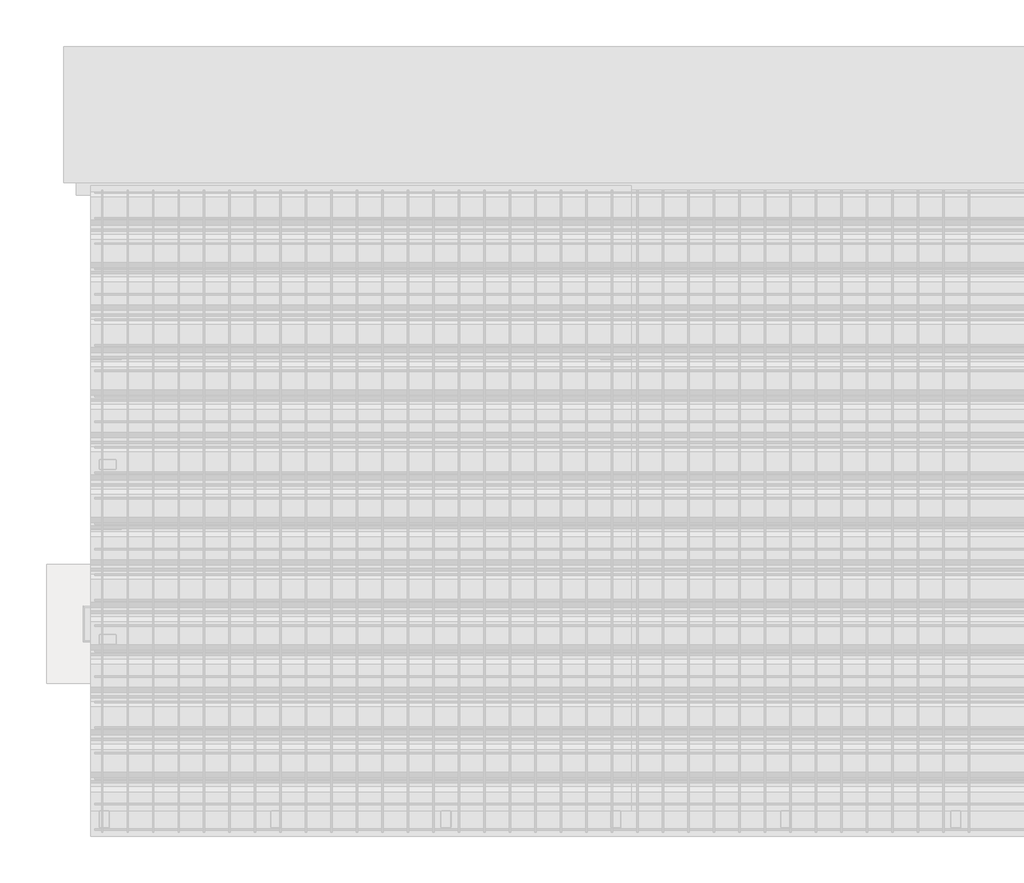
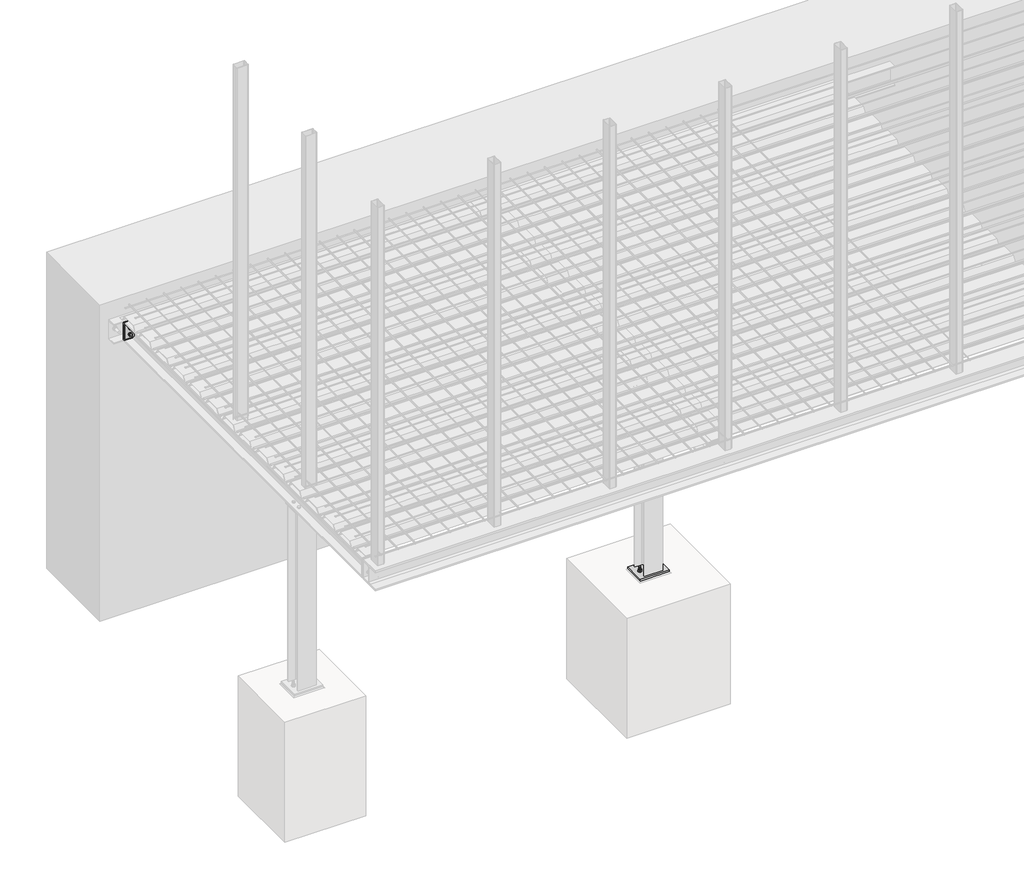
# One storey, part 8 of 36: 9 proxies.
"""IFC4 building model written with IfcOpenShell, lengths in millimetres."""

from ifc_helpers import new_model, si_unit, point, frame, frame_2d, origin, place, context, project, spatial, polyline, circle_curve, trimmed, segment, composite_curve, outline, extrude, element, save

model = new_model("IFC4")

# Units and contexts
model_context = context("Model", 3, world=origin())
ifc_project = project(units=[si_unit("LENGTHUNIT", "METRE", prefix="MILLI")], contexts=[model_context])

# Site, building, storey
site = spatial("IfcSite", under=ifc_project)
building = spatial("IfcBuilding", under=site)
storey = spatial("IfcBuildingStorey", under=building, Name="Základy", Elevation=-1200.0)

# Proxies
placement = place(None, origin())
element("IfcBuildingElementProxy", 1, Name="PLECH", ObjectType="PLECH", at=placement, inside=storey, context=model_context, shape_type="SweptSolid", body=[
    extrude(outline(polyline([(-40.0, 3775.0), (140.0, 3775.0), (140.0, 3767.0), (-40.0, 3767.0), (-40.0, 3775.0)])), frame((0.0, 0.0, -316.0), z_axis=(0.0, 0.0, 1.0), x_axis=(1.0, 0.0, 0.0)), (0.0, 0.0, 1.0), 132.0),
])
element("IfcBuildingElementProxy", 2, Name="PLECH", ObjectType="PLECH", at=placement, inside=storey, context=model_context, shape_type="SweptSolid", body=[
    extrude(outline(polyline([(3175.0, 1356.0), (3175.0, 1164.0), (2925.0, 1164.0), (2925.0, 1356.0), (3175.0, 1356.0)])), frame((0.0, 0.0, -1990.0), z_axis=(0.0, 0.0, 1.0), x_axis=(1.0, 0.0, 0.0)), (0.0, 0.0, 1.0), 15.0),
])
element("IfcBuildingElementProxy", 3, Name="PLECH", ObjectType="PLECH", at=placement, inside=storey, context=model_context, shape_type="SweptSolid", body=[
    extrude(outline(polyline([(3140.0, 1346.0), (3140.0, 1174.0), (2960.0, 1174.0), (2960.0, 1346.0), (3140.0, 1346.0)])), frame((0.0, 0.0, -350.0), z_axis=(0.0, 0.0, 1.0), x_axis=(1.0, 0.0, 0.0)), (0.0, 0.0, 1.0), 10.0),
])
element("IfcBuildingElementProxy", 4, Name="PLECH", ObjectType="PLECH", at=placement, inside=storey, context=model_context, shape_type="SweptSolid", body=[
    extrude(outline(composite_curve([segment(polyline([(3785.0, -170.5), (3834.5, -170.5)]), True, "CONTINUOUS"), segment(trimmed(circle_curve(frame_2d((3854.5, -170.5)), 20.0), [point((3834.5, -170.5))], [point((3854.5, -190.5))], True, "CARTESIAN"), True, "CONTINUOUS"), segment(polyline([(3854.5, -190.5), (3854.5, -309.5)]), True, "CONTINUOUS"), segment(trimmed(circle_curve(frame_2d((3854.5, -329.5)), 20.0), [point((3854.5, -309.5))], [point((3834.5, -329.5))], True, "CARTESIAN"), True, "CONTINUOUS"), segment(polyline([(3834.5, -329.5), (3785.0, -329.5), (3785.0, -170.5)]), True, "CONTINUOUS")], self_intersect=False)), frame((46.0, 0.0, 0.0), z_axis=(1.0, 0.0, 0.0), x_axis=(0.0, 1.0, 0.0)), (0.0, 0.0, 1.0), 8.0),
])
element("IfcBuildingElementProxy", 5, Name="PLECH", ObjectType="PLECH", at=placement, inside=storey, context=model_context, shape_type="SweptSolid", body=[
    extrude(outline(polyline([(-40.0, 3785.0), (140.0, 3785.0), (140.0, 3775.0), (-40.0, 3775.0), (-40.0, 3785.0)])), frame((0.0, 0.0, -332.0), z_axis=(0.0, 0.0, 1.0), x_axis=(1.0, 0.0, 0.0)), (0.0, 0.0, 1.0), 164.0),
])
element("IfcBuildingElementProxy", 6, Name="Bolt assembly", ObjectType="Bolt assembly", at=placement, inside=storey, context=model_context, shape_type="SweptSolid", body=[
    extrude(outline(composite_curve([segment(trimmed(circle_curve(frame_2d((1230.0, -225.0)), 6.5), [point((1230.0, -231.5))], [point((1230.0, -218.5))], False, "CARTESIAN"), True, "CONTINUOUS"), segment(trimmed(circle_curve(frame_2d((1230.0, -225.0)), 6.5), [point((1230.0, -218.5))], [point((1230.0, -231.5))], False, "CARTESIAN"), True, "CONTINUOUS")], self_intersect=False)), frame((3140.1, 0.0, 0.0), z_axis=(1.0, 0.0, 0.0), x_axis=(0.0, 1.0, 0.0)), (0.0, 0.0, 1.0), 10.0),
    extrude(outline(polyline([(1230.0, -235.3923048), (1221.0, -230.1961524), (1221.0, -219.8038476), (1230.0, -214.6076952), (1239.0, -219.8038476), (1239.0, -230.1961524), (1230.0, -235.3923048)])), frame((3130.0, 0.0, 0.0), z_axis=(1.0, 0.0, 0.0), x_axis=(0.0, 1.0, 0.0)), (0.0, 0.0, 1.0), 7.5),
    extrude(outline(composite_curve([segment(trimmed(circle_curve(frame_2d((1230.0, -225.0)), 6.0), [point((1230.0, -231.0))], [point((1230.0, -219.0))], False, "CARTESIAN"), True, "CONTINUOUS"), segment(trimmed(circle_curve(frame_2d((1230.0, -225.0)), 6.0), [point((1230.0, -219.0))], [point((1230.0, -231.0))], False, "CARTESIAN"), True, "CONTINUOUS")], self_intersect=False)), frame((3137.5, 0.0, 0.0), z_axis=(1.0, 0.0, 0.0), x_axis=(0.0, 1.0, 0.0)), (0.0, 0.0, 1.0), 40.0),
    extrude(outline(composite_curve([segment(trimmed(circle_curve(frame_2d((1230.0, -225.0)), 12.0), [point((1230.0, -237.0))], [point((1230.0, -213.0))], False, "CARTESIAN"), True, "CONTINUOUS"), segment(trimmed(circle_curve(frame_2d((1230.0, -225.0)), 12.0), [point((1230.0, -213.0))], [point((1230.0, -237.0))], False, "CARTESIAN"), True, "CONTINUOUS")], self_intersect=False)), frame((3137.5, 0.0, 0.0), z_axis=(1.0, 0.0, 0.0), x_axis=(0.0, 1.0, 0.0)), (0.0, 0.0, 1.0), 2.5),
    extrude(outline(composite_curve([segment(trimmed(circle_curve(frame_2d((1230.0, -225.0)), 12.0), [point((1230.0, -237.0))], [point((1230.0, -213.0))], False, "CARTESIAN"), True, "CONTINUOUS"), segment(trimmed(circle_curve(frame_2d((1230.0, -225.0)), 12.0), [point((1230.0, -213.0))], [point((1230.0, -237.0))], False, "CARTESIAN"), True, "CONTINUOUS")], self_intersect=False)), frame((3160.0, 0.0, 0.0), z_axis=(1.0, 0.0, 0.0), x_axis=(0.0, 1.0, 0.0)), (0.0, 0.0, 1.0), 2.5),
    extrude(outline(polyline([(1230.0, -235.9696551), (1220.5, -230.4848276), (1220.5, -219.5151724), (1230.0, -214.0303449), (1239.5, -219.5151724), (1239.5, -230.4848276), (1230.0, -235.9696551)])), frame((3162.5, 0.0, 0.0), z_axis=(1.0, 0.0, 0.0), x_axis=(0.0, 1.0, 0.0)), (0.0, 0.0, 1.0), 10.0),
    extrude(outline(composite_curve([segment(trimmed(circle_curve(frame_2d((1230.0, -225.0)), 6.5), [point((1230.0, -231.5))], [point((1230.0, -218.5))], False, "CARTESIAN"), True, "CONTINUOUS"), segment(trimmed(circle_curve(frame_2d((1230.0, -225.0)), 6.5), [point((1230.0, -218.5))], [point((1230.0, -231.5))], False, "CARTESIAN"), True, "CONTINUOUS")], self_intersect=False)), frame((3149.9, 0.0, 0.0), z_axis=(1.0, 0.0, 0.0), x_axis=(0.0, 1.0, 0.0)), (0.0, 0.0, 1.0), 10.1),
    extrude(outline(composite_curve([segment(trimmed(circle_curve(frame_2d((1230.0, -275.0)), 6.5), [point((1230.0, -281.5))], [point((1230.0, -268.5))], False, "CARTESIAN"), True, "CONTINUOUS"), segment(trimmed(circle_curve(frame_2d((1230.0, -275.0)), 6.5), [point((1230.0, -268.5))], [point((1230.0, -281.5))], False, "CARTESIAN"), True, "CONTINUOUS")], self_intersect=False)), frame((3140.1, 0.0, 0.0), z_axis=(1.0, 0.0, 0.0), x_axis=(0.0, 1.0, 0.0)), (0.0, 0.0, 1.0), 10.0),
    extrude(outline(polyline([(1230.0, -285.3923048), (1221.0, -280.1961524), (1221.0, -269.8038476), (1230.0, -264.6076952), (1239.0, -269.8038476), (1239.0, -280.1961524), (1230.0, -285.3923048)])), frame((3130.0, 0.0, 0.0), z_axis=(1.0, 0.0, 0.0), x_axis=(0.0, 1.0, 0.0)), (0.0, 0.0, 1.0), 7.5),
    extrude(outline(composite_curve([segment(trimmed(circle_curve(frame_2d((1230.0, -275.0)), 6.0), [point((1230.0, -281.0))], [point((1230.0, -269.0))], False, "CARTESIAN"), True, "CONTINUOUS"), segment(trimmed(circle_curve(frame_2d((1230.0, -275.0)), 6.0), [point((1230.0, -269.0))], [point((1230.0, -281.0))], False, "CARTESIAN"), True, "CONTINUOUS")], self_intersect=False)), frame((3137.5, 0.0, 0.0), z_axis=(1.0, 0.0, 0.0), x_axis=(0.0, 1.0, 0.0)), (0.0, 0.0, 1.0), 40.0),
    extrude(outline(composite_curve([segment(trimmed(circle_curve(frame_2d((1230.0, -275.0)), 12.0), [point((1230.0, -287.0))], [point((1230.0, -263.0))], False, "CARTESIAN"), True, "CONTINUOUS"), segment(trimmed(circle_curve(frame_2d((1230.0, -275.0)), 12.0), [point((1230.0, -263.0))], [point((1230.0, -287.0))], False, "CARTESIAN"), True, "CONTINUOUS")], self_intersect=False)), frame((3137.5, 0.0, 0.0), z_axis=(1.0, 0.0, 0.0), x_axis=(0.0, 1.0, 0.0)), (0.0, 0.0, 1.0), 2.5),
    extrude(outline(composite_curve([segment(trimmed(circle_curve(frame_2d((1230.0, -275.0)), 12.0), [point((1230.0, -287.0))], [point((1230.0, -263.0))], False, "CARTESIAN"), True, "CONTINUOUS"), segment(trimmed(circle_curve(frame_2d((1230.0, -275.0)), 12.0), [point((1230.0, -263.0))], [point((1230.0, -287.0))], False, "CARTESIAN"), True, "CONTINUOUS")], self_intersect=False)), frame((3160.0, 0.0, 0.0), z_axis=(1.0, 0.0, 0.0), x_axis=(0.0, 1.0, 0.0)), (0.0, 0.0, 1.0), 2.5),
    extrude(outline(polyline([(1230.0, -285.9696551), (1220.5, -280.4848276), (1220.5, -269.5151724), (1230.0, -264.0303449), (1239.5, -269.5151724), (1239.5, -280.4848276), (1230.0, -285.9696551)])), frame((3162.5, 0.0, 0.0), z_axis=(1.0, 0.0, 0.0), x_axis=(0.0, 1.0, 0.0)), (0.0, 0.0, 1.0), 10.0),
    extrude(outline(composite_curve([segment(trimmed(circle_curve(frame_2d((1230.0, -275.0)), 6.5), [point((1230.0, -281.5))], [point((1230.0, -268.5))], False, "CARTESIAN"), True, "CONTINUOUS"), segment(trimmed(circle_curve(frame_2d((1230.0, -275.0)), 6.5), [point((1230.0, -268.5))], [point((1230.0, -281.5))], False, "CARTESIAN"), True, "CONTINUOUS")], self_intersect=False)), frame((3149.9, 0.0, 0.0), z_axis=(1.0, 0.0, 0.0), x_axis=(0.0, 1.0, 0.0)), (0.0, 0.0, 1.0), 10.1),
    extrude(outline(composite_curve([segment(trimmed(circle_curve(frame_2d((1290.0, -225.0)), 6.5), [point((1290.0, -231.5))], [point((1290.0, -218.5))], False, "CARTESIAN"), True, "CONTINUOUS"), segment(trimmed(circle_curve(frame_2d((1290.0, -225.0)), 6.5), [point((1290.0, -218.5))], [point((1290.0, -231.5))], False, "CARTESIAN"), True, "CONTINUOUS")], self_intersect=False)), frame((3140.1, 0.0, 0.0), z_axis=(1.0, 0.0, 0.0), x_axis=(0.0, 1.0, 0.0)), (0.0, 0.0, 1.0), 10.0),
    extrude(outline(polyline([(1290.0, -235.3923048), (1281.0, -230.1961524), (1281.0, -219.8038476), (1290.0, -214.6076952), (1299.0, -219.8038476), (1299.0, -230.1961524), (1290.0, -235.3923048)])), frame((3130.0, 0.0, 0.0), z_axis=(1.0, 0.0, 0.0), x_axis=(0.0, 1.0, 0.0)), (0.0, 0.0, 1.0), 7.5),
    extrude(outline(composite_curve([segment(trimmed(circle_curve(frame_2d((1290.0, -225.0)), 6.0), [point((1290.0, -231.0))], [point((1290.0, -219.0))], False, "CARTESIAN"), True, "CONTINUOUS"), segment(trimmed(circle_curve(frame_2d((1290.0, -225.0)), 6.0), [point((1290.0, -219.0))], [point((1290.0, -231.0))], False, "CARTESIAN"), True, "CONTINUOUS")], self_intersect=False)), frame((3137.5, 0.0, 0.0), z_axis=(1.0, 0.0, 0.0), x_axis=(0.0, 1.0, 0.0)), (0.0, 0.0, 1.0), 40.0),
    extrude(outline(composite_curve([segment(trimmed(circle_curve(frame_2d((1290.0, -225.0)), 12.0), [point((1290.0, -237.0))], [point((1290.0, -213.0))], False, "CARTESIAN"), True, "CONTINUOUS"), segment(trimmed(circle_curve(frame_2d((1290.0, -225.0)), 12.0), [point((1290.0, -213.0))], [point((1290.0, -237.0))], False, "CARTESIAN"), True, "CONTINUOUS")], self_intersect=False)), frame((3137.5, 0.0, 0.0), z_axis=(1.0, 0.0, 0.0), x_axis=(0.0, 1.0, 0.0)), (0.0, 0.0, 1.0), 2.5),
    extrude(outline(composite_curve([segment(trimmed(circle_curve(frame_2d((1290.0, -225.0)), 12.0), [point((1290.0, -237.0))], [point((1290.0, -213.0))], False, "CARTESIAN"), True, "CONTINUOUS"), segment(trimmed(circle_curve(frame_2d((1290.0, -225.0)), 12.0), [point((1290.0, -213.0))], [point((1290.0, -237.0))], False, "CARTESIAN"), True, "CONTINUOUS")], self_intersect=False)), frame((3160.0, 0.0, 0.0), z_axis=(1.0, 0.0, 0.0), x_axis=(0.0, 1.0, 0.0)), (0.0, 0.0, 1.0), 2.5),
    extrude(outline(polyline([(1290.0, -235.9696551), (1280.5, -230.4848276), (1280.5, -219.5151724), (1290.0, -214.0303449), (1299.5, -219.5151724), (1299.5, -230.4848276), (1290.0, -235.9696551)])), frame((3162.5, 0.0, 0.0), z_axis=(1.0, 0.0, 0.0), x_axis=(0.0, 1.0, 0.0)), (0.0, 0.0, 1.0), 10.0),
    extrude(outline(composite_curve([segment(trimmed(circle_curve(frame_2d((1290.0, -225.0)), 6.5), [point((1290.0, -231.5))], [point((1290.0, -218.5))], False, "CARTESIAN"), True, "CONTINUOUS"), segment(trimmed(circle_curve(frame_2d((1290.0, -225.0)), 6.5), [point((1290.0, -218.5))], [point((1290.0, -231.5))], False, "CARTESIAN"), True, "CONTINUOUS")], self_intersect=False)), frame((3149.9, 0.0, 0.0), z_axis=(1.0, 0.0, 0.0), x_axis=(0.0, 1.0, 0.0)), (0.0, 0.0, 1.0), 10.1),
    extrude(outline(composite_curve([segment(trimmed(circle_curve(frame_2d((1290.0, -275.0)), 6.5), [point((1290.0, -281.5))], [point((1290.0, -268.5))], False, "CARTESIAN"), True, "CONTINUOUS"), segment(trimmed(circle_curve(frame_2d((1290.0, -275.0)), 6.5), [point((1290.0, -268.5))], [point((1290.0, -281.5))], False, "CARTESIAN"), True, "CONTINUOUS")], self_intersect=False)), frame((3140.1, 0.0, 0.0), z_axis=(1.0, 0.0, 0.0), x_axis=(0.0, 1.0, 0.0)), (0.0, 0.0, 1.0), 10.0),
    extrude(outline(polyline([(1290.0, -285.3923048), (1281.0, -280.1961524), (1281.0, -269.8038476), (1290.0, -264.6076952), (1299.0, -269.8038476), (1299.0, -280.1961524), (1290.0, -285.3923048)])), frame((3130.0, 0.0, 0.0), z_axis=(1.0, 0.0, 0.0), x_axis=(0.0, 1.0, 0.0)), (0.0, 0.0, 1.0), 7.5),
    extrude(outline(composite_curve([segment(trimmed(circle_curve(frame_2d((1290.0, -275.0)), 6.0), [point((1290.0, -281.0))], [point((1290.0, -269.0))], False, "CARTESIAN"), True, "CONTINUOUS"), segment(trimmed(circle_curve(frame_2d((1290.0, -275.0)), 6.0), [point((1290.0, -269.0))], [point((1290.0, -281.0))], False, "CARTESIAN"), True, "CONTINUOUS")], self_intersect=False)), frame((3137.5, 0.0, 0.0), z_axis=(1.0, 0.0, 0.0), x_axis=(0.0, 1.0, 0.0)), (0.0, 0.0, 1.0), 40.0),
    extrude(outline(composite_curve([segment(trimmed(circle_curve(frame_2d((1290.0, -275.0)), 12.0), [point((1290.0, -287.0))], [point((1290.0, -263.0))], False, "CARTESIAN"), True, "CONTINUOUS"), segment(trimmed(circle_curve(frame_2d((1290.0, -275.0)), 12.0), [point((1290.0, -263.0))], [point((1290.0, -287.0))], False, "CARTESIAN"), True, "CONTINUOUS")], self_intersect=False)), frame((3137.5, 0.0, 0.0), z_axis=(1.0, 0.0, 0.0), x_axis=(0.0, 1.0, 0.0)), (0.0, 0.0, 1.0), 2.5),
    extrude(outline(composite_curve([segment(trimmed(circle_curve(frame_2d((1290.0, -275.0)), 12.0), [point((1290.0, -287.0))], [point((1290.0, -263.0))], False, "CARTESIAN"), True, "CONTINUOUS"), segment(trimmed(circle_curve(frame_2d((1290.0, -275.0)), 12.0), [point((1290.0, -263.0))], [point((1290.0, -287.0))], False, "CARTESIAN"), True, "CONTINUOUS")], self_intersect=False)), frame((3160.0, 0.0, 0.0), z_axis=(1.0, 0.0, 0.0), x_axis=(0.0, 1.0, 0.0)), (0.0, 0.0, 1.0), 2.5),
    extrude(outline(polyline([(1290.0, -285.9696551), (1280.5, -280.4848276), (1280.5, -269.5151724), (1290.0, -264.0303449), (1299.5, -269.5151724), (1299.5, -280.4848276), (1290.0, -285.9696551)])), frame((3162.5, 0.0, 0.0), z_axis=(1.0, 0.0, 0.0), x_axis=(0.0, 1.0, 0.0)), (0.0, 0.0, 1.0), 10.0),
    extrude(outline(composite_curve([segment(trimmed(circle_curve(frame_2d((1290.0, -275.0)), 6.5), [point((1290.0, -281.5))], [point((1290.0, -268.5))], False, "CARTESIAN"), True, "CONTINUOUS"), segment(trimmed(circle_curve(frame_2d((1290.0, -275.0)), 6.5), [point((1290.0, -268.5))], [point((1290.0, -281.5))], False, "CARTESIAN"), True, "CONTINUOUS")], self_intersect=False)), frame((3149.9, 0.0, 0.0), z_axis=(1.0, 0.0, 0.0), x_axis=(0.0, 1.0, 0.0)), (0.0, 0.0, 1.0), 10.1),
])
element("IfcBuildingElementProxy", 7, Name="Bolt assembly", ObjectType="Bolt assembly", at=placement, inside=storey, context=model_context, shape_type="SweptSolid", body=[
    extrude(outline(polyline([(2982.7364934, 1260.0), (2978.8682467, 1253.3000002), (2971.1317533, 1253.3000002), (2967.2635066, 1260.0), (2971.1317533, 1266.6999998), (2978.8682467, 1266.6999998), (2982.7364934, 1260.0)])), frame((0.0, 0.0, -2122.0), z_axis=(0.0, 0.0, 1.0), x_axis=(1.0, 0.0, 0.0)), (0.0, 0.0, 1.0), 132.0),
    extrude(outline(composite_curve([segment(trimmed(circle_curve(frame_2d((2975.0, 1260.0)), 8.0), [point((2983.0, 1260.0))], [point((2967.0, 1260.0))], False, "CARTESIAN"), True, "CONTINUOUS"), segment(trimmed(circle_curve(frame_2d((2975.0, 1260.0)), 8.0), [point((2967.0, 1260.0))], [point((2983.0, 1260.0))], False, "CARTESIAN"), True, "CONTINUOUS")], self_intersect=False)), frame((0.0, 0.0, -1990.0), z_axis=(0.0, 0.0, 1.0), x_axis=(1.0, 0.0, 0.0)), (0.0, 0.0, 1.0), 58.0),
    extrude(outline(composite_curve([segment(trimmed(circle_curve(frame_2d((2975.0, 1260.0)), 15.0), [point((2990.0, 1260.0))], [point((2960.0, 1260.0))], False, "CARTESIAN"), True, "CONTINUOUS"), segment(trimmed(circle_curve(frame_2d((2975.0, 1260.0)), 15.0), [point((2960.0, 1260.0))], [point((2990.0, 1260.0))], False, "CARTESIAN"), True, "CONTINUOUS")], self_intersect=False)), frame((0.0, 0.0, -1975.0), z_axis=(0.0, 0.0, 1.0), x_axis=(1.0, 0.0, 0.0)), (0.0, 0.0, 1.0), 3.0),
    extrude(outline(polyline([(2990.4441197, 1260.0), (2982.7220599, 1246.625), (2967.2779401, 1246.625), (2959.5558803, 1260.0), (2967.2779401, 1273.375), (2982.7220599, 1273.375), (2990.4441197, 1260.0)])), frame((0.0, 0.0, -1972.0), z_axis=(0.0, 0.0, 1.0), x_axis=(1.0, 0.0, 0.0)), (0.0, 0.0, 1.0), 13.0),
    extrude(outline(composite_curve([segment(trimmed(circle_curve(frame_2d((2975.0, 1260.0)), 9.0), [point((2984.0, 1260.0))], [point((2966.0, 1260.0))], False, "CARTESIAN"), True, "CONTINUOUS"), segment(trimmed(circle_curve(frame_2d((2975.0, 1260.0)), 9.0), [point((2966.0, 1260.0))], [point((2984.0, 1260.0))], False, "CARTESIAN"), True, "CONTINUOUS")], self_intersect=False)), frame((0.0, 0.0, -1990.0), z_axis=(0.0, 0.0, 1.0), x_axis=(1.0, 0.0, 0.0)), (0.0, 0.0, 1.0), 15.1),
    extrude(outline(polyline([(3132.7364934, 1260.0), (3128.8682467, 1253.3000002), (3121.1317533, 1253.3000002), (3117.2635066, 1260.0), (3121.1317533, 1266.6999998), (3128.8682467, 1266.6999998), (3132.7364934, 1260.0)])), frame((0.0, 0.0, -2122.0), z_axis=(0.0, 0.0, 1.0), x_axis=(1.0, 0.0, 0.0)), (0.0, 0.0, 1.0), 132.0),
    extrude(outline(composite_curve([segment(trimmed(circle_curve(frame_2d((3125.0, 1260.0)), 8.0), [point((3133.0, 1260.0))], [point((3117.0, 1260.0))], False, "CARTESIAN"), True, "CONTINUOUS"), segment(trimmed(circle_curve(frame_2d((3125.0, 1260.0)), 8.0), [point((3117.0, 1260.0))], [point((3133.0, 1260.0))], False, "CARTESIAN"), True, "CONTINUOUS")], self_intersect=False)), frame((0.0, 0.0, -1990.0), z_axis=(0.0, 0.0, 1.0), x_axis=(1.0, 0.0, 0.0)), (0.0, 0.0, 1.0), 58.0),
    extrude(outline(composite_curve([segment(trimmed(circle_curve(frame_2d((3125.0, 1260.0)), 15.0), [point((3140.0, 1260.0))], [point((3110.0, 1260.0))], False, "CARTESIAN"), True, "CONTINUOUS"), segment(trimmed(circle_curve(frame_2d((3125.0, 1260.0)), 15.0), [point((3110.0, 1260.0))], [point((3140.0, 1260.0))], False, "CARTESIAN"), True, "CONTINUOUS")], self_intersect=False)), frame((0.0, 0.0, -1975.0), z_axis=(0.0, 0.0, 1.0), x_axis=(1.0, 0.0, 0.0)), (0.0, 0.0, 1.0), 3.0),
    extrude(outline(polyline([(3140.4441197, 1260.0), (3132.7220599, 1246.625), (3117.2779401, 1246.625), (3109.5558803, 1260.0), (3117.2779401, 1273.375), (3132.7220599, 1273.375), (3140.4441197, 1260.0)])), frame((0.0, 0.0, -1972.0), z_axis=(0.0, 0.0, 1.0), x_axis=(1.0, 0.0, 0.0)), (0.0, 0.0, 1.0), 13.0),
    extrude(outline(composite_curve([segment(trimmed(circle_curve(frame_2d((3125.0, 1260.0)), 9.0), [point((3134.0, 1260.0))], [point((3116.0, 1260.0))], False, "CARTESIAN"), True, "CONTINUOUS"), segment(trimmed(circle_curve(frame_2d((3125.0, 1260.0)), 9.0), [point((3116.0, 1260.0))], [point((3134.0, 1260.0))], False, "CARTESIAN"), True, "CONTINUOUS")], self_intersect=False)), frame((0.0, 0.0, -1990.0), z_axis=(0.0, 0.0, 1.0), x_axis=(1.0, 0.0, 0.0)), (0.0, 0.0, 1.0), 15.1),
])
element("IfcBuildingElementProxy", 8, Name="Bolt assembly", ObjectType="Bolt assembly", at=placement, inside=storey, context=model_context, shape_type="SweptSolid", body=[
    extrude(outline(composite_curve([segment(trimmed(circle_curve(frame_2d((3000.0, 1220.0)), 6.5), [point((3006.5, 1220.0))], [point((2993.5, 1220.0))], False, "CARTESIAN"), True, "CONTINUOUS"), segment(trimmed(circle_curve(frame_2d((3000.0, 1220.0)), 6.5), [point((2993.5, 1220.0))], [point((3006.5, 1220.0))], False, "CARTESIAN"), True, "CONTINUOUS")], self_intersect=False)), frame((0.0, 0.0, -350.0), z_axis=(0.0, 0.0, 1.0), x_axis=(1.0, 0.0, 0.0)), (0.0, 0.0, 1.0), 10.1),
    extrude(outline(polyline([(3010.3923048, 1220.0), (3005.1961524, 1211.0), (2994.8038476, 1211.0), (2989.6076952, 1220.0), (2994.8038476, 1229.0), (3005.1961524, 1229.0), (3010.3923048, 1220.0)])), frame((0.0, 0.0, -323.5), z_axis=(0.0, 0.0, 1.0), x_axis=(1.0, 0.0, 0.0)), (0.0, 0.0, 1.0), 7.5),
    extrude(outline(composite_curve([segment(trimmed(circle_curve(frame_2d((3000.0, 1220.0)), 6.0), [point((3006.0, 1220.0))], [point((2994.0, 1220.0))], False, "CARTESIAN"), True, "CONTINUOUS"), segment(trimmed(circle_curve(frame_2d((3000.0, 1220.0)), 6.0), [point((2994.0, 1220.0))], [point((3006.0, 1220.0))], False, "CARTESIAN"), True, "CONTINUOUS")], self_intersect=False)), frame((0.0, 0.0, -368.5), z_axis=(0.0, 0.0, 1.0), x_axis=(1.0, 0.0, 0.0)), (0.0, 0.0, 1.0), 45.0),
    extrude(outline(composite_curve([segment(trimmed(circle_curve(frame_2d((3000.0, 1220.0)), 12.0), [point((3012.0, 1220.0))], [point((2988.0, 1220.0))], False, "CARTESIAN"), True, "CONTINUOUS"), segment(trimmed(circle_curve(frame_2d((3000.0, 1220.0)), 12.0), [point((2988.0, 1220.0))], [point((3012.0, 1220.0))], False, "CARTESIAN"), True, "CONTINUOUS")], self_intersect=False)), frame((0.0, 0.0, -326.0), z_axis=(0.0, 0.0, 1.0), x_axis=(1.0, 0.0, 0.0)), (0.0, 0.0, 1.0), 2.5),
    extrude(outline(composite_curve([segment(trimmed(circle_curve(frame_2d((3000.0, 1220.0)), 12.0), [point((3012.0, 1220.0))], [point((2988.0, 1220.0))], False, "CARTESIAN"), True, "CONTINUOUS"), segment(trimmed(circle_curve(frame_2d((3000.0, 1220.0)), 12.0), [point((2988.0, 1220.0))], [point((3012.0, 1220.0))], False, "CARTESIAN"), True, "CONTINUOUS")], self_intersect=False)), frame((0.0, 0.0, -352.5), z_axis=(0.0, 0.0, 1.0), x_axis=(1.0, 0.0, 0.0)), (0.0, 0.0, 1.0), 2.5),
    extrude(outline(polyline([(3010.9696551, 1220.0), (3005.4848276, 1210.5), (2994.5151724, 1210.5), (2989.0303449, 1220.0), (2994.5151724, 1229.5), (3005.4848276, 1229.5), (3010.9696551, 1220.0)])), frame((0.0, 0.0, -362.5), z_axis=(0.0, 0.0, 1.0), x_axis=(1.0, 0.0, 0.0)), (0.0, 0.0, 1.0), 10.0),
    extrude(outline(composite_curve([segment(trimmed(circle_curve(frame_2d((3000.0, 1220.0)), 6.5), [point((3006.5, 1220.0))], [point((2993.5, 1220.0))], False, "CARTESIAN"), True, "CONTINUOUS"), segment(trimmed(circle_curve(frame_2d((3000.0, 1220.0)), 6.5), [point((2993.5, 1220.0))], [point((3006.5, 1220.0))], False, "CARTESIAN"), True, "CONTINUOUS")], self_intersect=False)), frame((0.0, 0.0, -340.1), z_axis=(0.0, 0.0, 1.0), x_axis=(1.0, 0.0, 0.0)), (0.0, 0.0, 1.0), 14.0),
    extrude(outline(composite_curve([segment(trimmed(circle_curve(frame_2d((3100.0, 1220.0)), 6.5), [point((3106.5, 1220.0))], [point((3093.5, 1220.0))], False, "CARTESIAN"), True, "CONTINUOUS"), segment(trimmed(circle_curve(frame_2d((3100.0, 1220.0)), 6.5), [point((3093.5, 1220.0))], [point((3106.5, 1220.0))], False, "CARTESIAN"), True, "CONTINUOUS")], self_intersect=False)), frame((0.0, 0.0, -350.0), z_axis=(0.0, 0.0, 1.0), x_axis=(1.0, 0.0, 0.0)), (0.0, 0.0, 1.0), 10.1),
    extrude(outline(polyline([(3110.3923048, 1220.0), (3105.1961524, 1211.0), (3094.8038476, 1211.0), (3089.6076952, 1220.0), (3094.8038476, 1229.0), (3105.1961524, 1229.0), (3110.3923048, 1220.0)])), frame((0.0, 0.0, -323.5), z_axis=(0.0, 0.0, 1.0), x_axis=(1.0, 0.0, 0.0)), (0.0, 0.0, 1.0), 7.5),
    extrude(outline(composite_curve([segment(trimmed(circle_curve(frame_2d((3100.0, 1220.0)), 6.0), [point((3106.0, 1220.0))], [point((3094.0, 1220.0))], False, "CARTESIAN"), True, "CONTINUOUS"), segment(trimmed(circle_curve(frame_2d((3100.0, 1220.0)), 6.0), [point((3094.0, 1220.0))], [point((3106.0, 1220.0))], False, "CARTESIAN"), True, "CONTINUOUS")], self_intersect=False)), frame((0.0, 0.0, -368.5), z_axis=(0.0, 0.0, 1.0), x_axis=(1.0, 0.0, 0.0)), (0.0, 0.0, 1.0), 45.0),
    extrude(outline(composite_curve([segment(trimmed(circle_curve(frame_2d((3100.0, 1220.0)), 12.0), [point((3112.0, 1220.0))], [point((3088.0, 1220.0))], False, "CARTESIAN"), True, "CONTINUOUS"), segment(trimmed(circle_curve(frame_2d((3100.0, 1220.0)), 12.0), [point((3088.0, 1220.0))], [point((3112.0, 1220.0))], False, "CARTESIAN"), True, "CONTINUOUS")], self_intersect=False)), frame((0.0, 0.0, -326.0), z_axis=(0.0, 0.0, 1.0), x_axis=(1.0, 0.0, 0.0)), (0.0, 0.0, 1.0), 2.5),
    extrude(outline(composite_curve([segment(trimmed(circle_curve(frame_2d((3100.0, 1220.0)), 12.0), [point((3112.0, 1220.0))], [point((3088.0, 1220.0))], False, "CARTESIAN"), True, "CONTINUOUS"), segment(trimmed(circle_curve(frame_2d((3100.0, 1220.0)), 12.0), [point((3088.0, 1220.0))], [point((3112.0, 1220.0))], False, "CARTESIAN"), True, "CONTINUOUS")], self_intersect=False)), frame((0.0, 0.0, -352.5), z_axis=(0.0, 0.0, 1.0), x_axis=(1.0, 0.0, 0.0)), (0.0, 0.0, 1.0), 2.5),
    extrude(outline(polyline([(3110.9696551, 1220.0), (3105.4848276, 1210.5), (3094.5151724, 1210.5), (3089.0303449, 1220.0), (3094.5151724, 1229.5), (3105.4848276, 1229.5), (3110.9696551, 1220.0)])), frame((0.0, 0.0, -362.5), z_axis=(0.0, 0.0, 1.0), x_axis=(1.0, 0.0, 0.0)), (0.0, 0.0, 1.0), 10.0),
    extrude(outline(composite_curve([segment(trimmed(circle_curve(frame_2d((3100.0, 1220.0)), 6.5), [point((3106.5, 1220.0))], [point((3093.5, 1220.0))], False, "CARTESIAN"), True, "CONTINUOUS"), segment(trimmed(circle_curve(frame_2d((3100.0, 1220.0)), 6.5), [point((3093.5, 1220.0))], [point((3106.5, 1220.0))], False, "CARTESIAN"), True, "CONTINUOUS")], self_intersect=False)), frame((0.0, 0.0, -340.1), z_axis=(0.0, 0.0, 1.0), x_axis=(1.0, 0.0, 0.0)), (0.0, 0.0, 1.0), 14.0),
    extrude(outline(composite_curve([segment(trimmed(circle_curve(frame_2d((3000.0, 1300.0)), 6.5), [point((3006.5, 1300.0))], [point((2993.5, 1300.0))], False, "CARTESIAN"), True, "CONTINUOUS"), segment(trimmed(circle_curve(frame_2d((3000.0, 1300.0)), 6.5), [point((2993.5, 1300.0))], [point((3006.5, 1300.0))], False, "CARTESIAN"), True, "CONTINUOUS")], self_intersect=False)), frame((0.0, 0.0, -350.0), z_axis=(0.0, 0.0, 1.0), x_axis=(1.0, 0.0, 0.0)), (0.0, 0.0, 1.0), 10.1),
    extrude(outline(polyline([(3010.3923048, 1300.0), (3005.1961524, 1291.0), (2994.8038476, 1291.0), (2989.6076952, 1300.0), (2994.8038476, 1309.0), (3005.1961524, 1309.0), (3010.3923048, 1300.0)])), frame((0.0, 0.0, -323.5), z_axis=(0.0, 0.0, 1.0), x_axis=(1.0, 0.0, 0.0)), (0.0, 0.0, 1.0), 7.5),
    extrude(outline(composite_curve([segment(trimmed(circle_curve(frame_2d((3000.0, 1300.0)), 6.0), [point((3006.0, 1300.0))], [point((2994.0, 1300.0))], False, "CARTESIAN"), True, "CONTINUOUS"), segment(trimmed(circle_curve(frame_2d((3000.0, 1300.0)), 6.0), [point((2994.0, 1300.0))], [point((3006.0, 1300.0))], False, "CARTESIAN"), True, "CONTINUOUS")], self_intersect=False)), frame((0.0, 0.0, -368.5), z_axis=(0.0, 0.0, 1.0), x_axis=(1.0, 0.0, 0.0)), (0.0, 0.0, 1.0), 45.0),
    extrude(outline(composite_curve([segment(trimmed(circle_curve(frame_2d((3000.0, 1300.0)), 12.0), [point((3012.0, 1300.0))], [point((2988.0, 1300.0))], False, "CARTESIAN"), True, "CONTINUOUS"), segment(trimmed(circle_curve(frame_2d((3000.0, 1300.0)), 12.0), [point((2988.0, 1300.0))], [point((3012.0, 1300.0))], False, "CARTESIAN"), True, "CONTINUOUS")], self_intersect=False)), frame((0.0, 0.0, -326.0), z_axis=(0.0, 0.0, 1.0), x_axis=(1.0, 0.0, 0.0)), (0.0, 0.0, 1.0), 2.5),
    extrude(outline(composite_curve([segment(trimmed(circle_curve(frame_2d((3000.0, 1300.0)), 12.0), [point((3012.0, 1300.0))], [point((2988.0, 1300.0))], False, "CARTESIAN"), True, "CONTINUOUS"), segment(trimmed(circle_curve(frame_2d((3000.0, 1300.0)), 12.0), [point((2988.0, 1300.0))], [point((3012.0, 1300.0))], False, "CARTESIAN"), True, "CONTINUOUS")], self_intersect=False)), frame((0.0, 0.0, -352.5), z_axis=(0.0, 0.0, 1.0), x_axis=(1.0, 0.0, 0.0)), (0.0, 0.0, 1.0), 2.5),
    extrude(outline(polyline([(3010.9696551, 1300.0), (3005.4848276, 1290.5), (2994.5151724, 1290.5), (2989.0303449, 1300.0), (2994.5151724, 1309.5), (3005.4848276, 1309.5), (3010.9696551, 1300.0)])), frame((0.0, 0.0, -362.5), z_axis=(0.0, 0.0, 1.0), x_axis=(1.0, 0.0, 0.0)), (0.0, 0.0, 1.0), 10.0),
    extrude(outline(composite_curve([segment(trimmed(circle_curve(frame_2d((3000.0, 1300.0)), 6.5), [point((3006.5, 1300.0))], [point((2993.5, 1300.0))], False, "CARTESIAN"), True, "CONTINUOUS"), segment(trimmed(circle_curve(frame_2d((3000.0, 1300.0)), 6.5), [point((2993.5, 1300.0))], [point((3006.5, 1300.0))], False, "CARTESIAN"), True, "CONTINUOUS")], self_intersect=False)), frame((0.0, 0.0, -340.1), z_axis=(0.0, 0.0, 1.0), x_axis=(1.0, 0.0, 0.0)), (0.0, 0.0, 1.0), 14.0),
    extrude(outline(composite_curve([segment(trimmed(circle_curve(frame_2d((3100.0, 1300.0)), 6.5), [point((3106.5, 1300.0))], [point((3093.5, 1300.0))], False, "CARTESIAN"), True, "CONTINUOUS"), segment(trimmed(circle_curve(frame_2d((3100.0, 1300.0)), 6.5), [point((3093.5, 1300.0))], [point((3106.5, 1300.0))], False, "CARTESIAN"), True, "CONTINUOUS")], self_intersect=False)), frame((0.0, 0.0, -350.0), z_axis=(0.0, 0.0, 1.0), x_axis=(1.0, 0.0, 0.0)), (0.0, 0.0, 1.0), 10.1),
    extrude(outline(polyline([(3110.3923048, 1300.0), (3105.1961524, 1291.0), (3094.8038476, 1291.0), (3089.6076952, 1300.0), (3094.8038476, 1309.0), (3105.1961524, 1309.0), (3110.3923048, 1300.0)])), frame((0.0, 0.0, -323.5), z_axis=(0.0, 0.0, 1.0), x_axis=(1.0, 0.0, 0.0)), (0.0, 0.0, 1.0), 7.5),
    extrude(outline(composite_curve([segment(trimmed(circle_curve(frame_2d((3100.0, 1300.0)), 6.0), [point((3106.0, 1300.0))], [point((3094.0, 1300.0))], False, "CARTESIAN"), True, "CONTINUOUS"), segment(trimmed(circle_curve(frame_2d((3100.0, 1300.0)), 6.0), [point((3094.0, 1300.0))], [point((3106.0, 1300.0))], False, "CARTESIAN"), True, "CONTINUOUS")], self_intersect=False)), frame((0.0, 0.0, -368.5), z_axis=(0.0, 0.0, 1.0), x_axis=(1.0, 0.0, 0.0)), (0.0, 0.0, 1.0), 45.0),
    extrude(outline(composite_curve([segment(trimmed(circle_curve(frame_2d((3100.0, 1300.0)), 12.0), [point((3112.0, 1300.0))], [point((3088.0, 1300.0))], False, "CARTESIAN"), True, "CONTINUOUS"), segment(trimmed(circle_curve(frame_2d((3100.0, 1300.0)), 12.0), [point((3088.0, 1300.0))], [point((3112.0, 1300.0))], False, "CARTESIAN"), True, "CONTINUOUS")], self_intersect=False)), frame((0.0, 0.0, -326.0), z_axis=(0.0, 0.0, 1.0), x_axis=(1.0, 0.0, 0.0)), (0.0, 0.0, 1.0), 2.5),
    extrude(outline(composite_curve([segment(trimmed(circle_curve(frame_2d((3100.0, 1300.0)), 12.0), [point((3112.0, 1300.0))], [point((3088.0, 1300.0))], False, "CARTESIAN"), True, "CONTINUOUS"), segment(trimmed(circle_curve(frame_2d((3100.0, 1300.0)), 12.0), [point((3088.0, 1300.0))], [point((3112.0, 1300.0))], False, "CARTESIAN"), True, "CONTINUOUS")], self_intersect=False)), frame((0.0, 0.0, -352.5), z_axis=(0.0, 0.0, 1.0), x_axis=(1.0, 0.0, 0.0)), (0.0, 0.0, 1.0), 2.5),
    extrude(outline(polyline([(3110.9696551, 1300.0), (3105.4848276, 1290.5), (3094.5151724, 1290.5), (3089.0303449, 1300.0), (3094.5151724, 1309.5), (3105.4848276, 1309.5), (3110.9696551, 1300.0)])), frame((0.0, 0.0, -362.5), z_axis=(0.0, 0.0, 1.0), x_axis=(1.0, 0.0, 0.0)), (0.0, 0.0, 1.0), 10.0),
    extrude(outline(composite_curve([segment(trimmed(circle_curve(frame_2d((3100.0, 1300.0)), 6.5), [point((3106.5, 1300.0))], [point((3093.5, 1300.0))], False, "CARTESIAN"), True, "CONTINUOUS"), segment(trimmed(circle_curve(frame_2d((3100.0, 1300.0)), 6.5), [point((3093.5, 1300.0))], [point((3106.5, 1300.0))], False, "CARTESIAN"), True, "CONTINUOUS")], self_intersect=False)), frame((0.0, 0.0, -340.1), z_axis=(0.0, 0.0, 1.0), x_axis=(1.0, 0.0, 0.0)), (0.0, 0.0, 1.0), 14.0),
])
element("IfcBuildingElementProxy", 9, Name="Bolt assembly", ObjectType="Bolt assembly", at=placement, inside=storey, context=model_context, shape_type="SweptSolid", body=[
    extrude(outline(composite_curve([segment(trimmed(circle_curve(frame_2d((-220.0, 5.0)), 9.0), [point((-220.0, 14.0))], [point((-220.0, -4.0))], False, "CARTESIAN"), True, "CONTINUOUS"), segment(trimmed(circle_curve(frame_2d((-220.0, 5.0)), 9.0), [point((-220.0, -4.0))], [point((-220.0, 14.0))], False, "CARTESIAN"), True, "CONTINUOUS")], self_intersect=False)), frame((0.0, 3774.9, 0.0), z_axis=(0.0, 1.0, 0.0), x_axis=(0.0, 0.0, 1.0)), (0.0, 0.0, 1.0), 10.0),
    extrude(outline(polyline([(-220.0, 18.8564065), (-208.0, 11.9282032), (-208.0, -1.9282032), (-220.0, -8.8564065), (-232.0, -1.9282032), (-232.0, 11.9282032), (-220.0, 18.8564065)])), frame((0.0, 3788.0, 0.0), z_axis=(0.0, 1.0, 0.0), x_axis=(0.0, 0.0, 1.0)), (0.0, 0.0, 1.0), 10.0),
    extrude(outline(composite_curve([segment(trimmed(circle_curve(frame_2d((-220.0, 5.0)), 8.0), [point((-220.0, 13.0))], [point((-220.0, -3.0))], False, "CARTESIAN"), True, "CONTINUOUS"), segment(trimmed(circle_curve(frame_2d((-220.0, 5.0)), 8.0), [point((-220.0, -3.0))], [point((-220.0, 13.0))], False, "CARTESIAN"), True, "CONTINUOUS")], self_intersect=False)), frame((0.0, 3738.0, 0.0), z_axis=(0.0, 1.0, 0.0), x_axis=(0.0, 0.0, 1.0)), (0.0, 0.0, 1.0), 50.0),
    extrude(outline(composite_curve([segment(trimmed(circle_curve(frame_2d((-220.0, 5.0)), 15.0), [point((-220.0, 20.0))], [point((-220.0, -10.0))], False, "CARTESIAN"), True, "CONTINUOUS"), segment(trimmed(circle_curve(frame_2d((-220.0, 5.0)), 15.0), [point((-220.0, -10.0))], [point((-220.0, 20.0))], False, "CARTESIAN"), True, "CONTINUOUS")], self_intersect=False)), frame((0.0, 3785.0, 0.0), z_axis=(0.0, 1.0, 0.0), x_axis=(0.0, 0.0, 1.0)), (0.0, 0.0, 1.0), 3.0),
    extrude(outline(composite_curve([segment(trimmed(circle_curve(frame_2d((-220.0, 5.0)), 15.0), [point((-220.0, 20.0))], [point((-220.0, -10.0))], False, "CARTESIAN"), True, "CONTINUOUS"), segment(trimmed(circle_curve(frame_2d((-220.0, 5.0)), 15.0), [point((-220.0, -10.0))], [point((-220.0, 20.0))], False, "CARTESIAN"), True, "CONTINUOUS")], self_intersect=False)), frame((0.0, 3764.0, 0.0), z_axis=(0.0, 1.0, 0.0), x_axis=(0.0, 0.0, 1.0)), (0.0, 0.0, 1.0), 3.0),
    extrude(outline(polyline([(-220.0, 20.4441197), (-206.625, 12.7220599), (-206.625, -2.7220599), (-220.0, -10.4441197), (-233.375, -2.7220599), (-233.375, 12.7220599), (-220.0, 20.4441197)])), frame((0.0, 3751.0, 0.0), z_axis=(0.0, 1.0, 0.0), x_axis=(0.0, 0.0, 1.0)), (0.0, 0.0, 1.0), 13.0),
    extrude(outline(composite_curve([segment(trimmed(circle_curve(frame_2d((-220.0, 5.0)), 9.0), [point((-220.0, 14.0))], [point((-220.0, -4.0))], False, "CARTESIAN"), True, "CONTINUOUS"), segment(trimmed(circle_curve(frame_2d((-220.0, 5.0)), 9.0), [point((-220.0, -4.0))], [point((-220.0, 14.0))], False, "CARTESIAN"), True, "CONTINUOUS")], self_intersect=False)), frame((0.0, 3767.0, 0.0), z_axis=(0.0, 1.0, 0.0), x_axis=(0.0, 0.0, 1.0)), (0.0, 0.0, 1.0), 8.1),
    extrude(outline(composite_curve([segment(trimmed(circle_curve(frame_2d((-220.0, 95.0)), 9.0), [point((-220.0, 104.0))], [point((-220.0, 86.0))], False, "CARTESIAN"), True, "CONTINUOUS"), segment(trimmed(circle_curve(frame_2d((-220.0, 95.0)), 9.0), [point((-220.0, 86.0))], [point((-220.0, 104.0))], False, "CARTESIAN"), True, "CONTINUOUS")], self_intersect=False)), frame((0.0, 3774.9, 0.0), z_axis=(0.0, 1.0, 0.0), x_axis=(0.0, 0.0, 1.0)), (0.0, 0.0, 1.0), 10.0),
    extrude(outline(polyline([(-220.0, 108.8564065), (-208.0, 101.9282032), (-208.0, 88.0717968), (-220.0, 81.1435935), (-232.0, 88.0717968), (-232.0, 101.9282032), (-220.0, 108.8564065)])), frame((0.0, 3788.0, 0.0), z_axis=(0.0, 1.0, 0.0), x_axis=(0.0, 0.0, 1.0)), (0.0, 0.0, 1.0), 10.0),
    extrude(outline(composite_curve([segment(trimmed(circle_curve(frame_2d((-220.0, 95.0)), 8.0), [point((-220.0, 103.0))], [point((-220.0, 87.0))], False, "CARTESIAN"), True, "CONTINUOUS"), segment(trimmed(circle_curve(frame_2d((-220.0, 95.0)), 8.0), [point((-220.0, 87.0))], [point((-220.0, 103.0))], False, "CARTESIAN"), True, "CONTINUOUS")], self_intersect=False)), frame((0.0, 3738.0, 0.0), z_axis=(0.0, 1.0, 0.0), x_axis=(0.0, 0.0, 1.0)), (0.0, 0.0, 1.0), 50.0),
    extrude(outline(composite_curve([segment(trimmed(circle_curve(frame_2d((-220.0, 95.0)), 15.0), [point((-220.0, 110.0))], [point((-220.0, 80.0))], False, "CARTESIAN"), True, "CONTINUOUS"), segment(trimmed(circle_curve(frame_2d((-220.0, 95.0)), 15.0), [point((-220.0, 80.0))], [point((-220.0, 110.0))], False, "CARTESIAN"), True, "CONTINUOUS")], self_intersect=False)), frame((0.0, 3785.0, 0.0), z_axis=(0.0, 1.0, 0.0), x_axis=(0.0, 0.0, 1.0)), (0.0, 0.0, 1.0), 3.0),
    extrude(outline(composite_curve([segment(trimmed(circle_curve(frame_2d((-220.0, 95.0)), 15.0), [point((-220.0, 110.0))], [point((-220.0, 80.0))], False, "CARTESIAN"), True, "CONTINUOUS"), segment(trimmed(circle_curve(frame_2d((-220.0, 95.0)), 15.0), [point((-220.0, 80.0))], [point((-220.0, 110.0))], False, "CARTESIAN"), True, "CONTINUOUS")], self_intersect=False)), frame((0.0, 3764.0, 0.0), z_axis=(0.0, 1.0, 0.0), x_axis=(0.0, 0.0, 1.0)), (0.0, 0.0, 1.0), 3.0),
    extrude(outline(polyline([(-220.0, 110.4441197), (-206.625, 102.7220599), (-206.625, 87.2779401), (-220.0, 79.5558803), (-233.375, 87.2779401), (-233.375, 102.7220599), (-220.0, 110.4441197)])), frame((0.0, 3751.0, 0.0), z_axis=(0.0, 1.0, 0.0), x_axis=(0.0, 0.0, 1.0)), (0.0, 0.0, 1.0), 13.0),
    extrude(outline(composite_curve([segment(trimmed(circle_curve(frame_2d((-220.0, 95.0)), 9.0), [point((-220.0, 104.0))], [point((-220.0, 86.0))], False, "CARTESIAN"), True, "CONTINUOUS"), segment(trimmed(circle_curve(frame_2d((-220.0, 95.0)), 9.0), [point((-220.0, 86.0))], [point((-220.0, 104.0))], False, "CARTESIAN"), True, "CONTINUOUS")], self_intersect=False)), frame((0.0, 3767.0, 0.0), z_axis=(0.0, 1.0, 0.0), x_axis=(0.0, 0.0, 1.0)), (0.0, 0.0, 1.0), 8.1),
    extrude(outline(composite_curve([segment(trimmed(circle_curve(frame_2d((-280.0, 5.0)), 9.0), [point((-280.0, 14.0))], [point((-280.0, -4.0))], False, "CARTESIAN"), True, "CONTINUOUS"), segment(trimmed(circle_curve(frame_2d((-280.0, 5.0)), 9.0), [point((-280.0, -4.0))], [point((-280.0, 14.0))], False, "CARTESIAN"), True, "CONTINUOUS")], self_intersect=False)), frame((0.0, 3774.9, 0.0), z_axis=(0.0, 1.0, 0.0), x_axis=(0.0, 0.0, 1.0)), (0.0, 0.0, 1.0), 10.0),
    extrude(outline(polyline([(-280.0, 18.8564065), (-268.0, 11.9282032), (-268.0, -1.9282032), (-280.0, -8.8564065), (-292.0, -1.9282032), (-292.0, 11.9282032), (-280.0, 18.8564065)])), frame((0.0, 3788.0, 0.0), z_axis=(0.0, 1.0, 0.0), x_axis=(0.0, 0.0, 1.0)), (0.0, 0.0, 1.0), 10.0),
    extrude(outline(composite_curve([segment(trimmed(circle_curve(frame_2d((-280.0, 5.0)), 8.0), [point((-280.0, 13.0))], [point((-280.0, -3.0))], False, "CARTESIAN"), True, "CONTINUOUS"), segment(trimmed(circle_curve(frame_2d((-280.0, 5.0)), 8.0), [point((-280.0, -3.0))], [point((-280.0, 13.0))], False, "CARTESIAN"), True, "CONTINUOUS")], self_intersect=False)), frame((0.0, 3738.0, 0.0), z_axis=(0.0, 1.0, 0.0), x_axis=(0.0, 0.0, 1.0)), (0.0, 0.0, 1.0), 50.0),
    extrude(outline(composite_curve([segment(trimmed(circle_curve(frame_2d((-280.0, 5.0)), 15.0), [point((-280.0, 20.0))], [point((-280.0, -10.0))], False, "CARTESIAN"), True, "CONTINUOUS"), segment(trimmed(circle_curve(frame_2d((-280.0, 5.0)), 15.0), [point((-280.0, -10.0))], [point((-280.0, 20.0))], False, "CARTESIAN"), True, "CONTINUOUS")], self_intersect=False)), frame((0.0, 3785.0, 0.0), z_axis=(0.0, 1.0, 0.0), x_axis=(0.0, 0.0, 1.0)), (0.0, 0.0, 1.0), 3.0),
    extrude(outline(composite_curve([segment(trimmed(circle_curve(frame_2d((-280.0, 5.0)), 15.0), [point((-280.0, 20.0))], [point((-280.0, -10.0))], False, "CARTESIAN"), True, "CONTINUOUS"), segment(trimmed(circle_curve(frame_2d((-280.0, 5.0)), 15.0), [point((-280.0, -10.0))], [point((-280.0, 20.0))], False, "CARTESIAN"), True, "CONTINUOUS")], self_intersect=False)), frame((0.0, 3764.0, 0.0), z_axis=(0.0, 1.0, 0.0), x_axis=(0.0, 0.0, 1.0)), (0.0, 0.0, 1.0), 3.0),
    extrude(outline(polyline([(-280.0, 20.4441197), (-266.625, 12.7220599), (-266.625, -2.7220599), (-280.0, -10.4441197), (-293.375, -2.7220599), (-293.375, 12.7220599), (-280.0, 20.4441197)])), frame((0.0, 3751.0, 0.0), z_axis=(0.0, 1.0, 0.0), x_axis=(0.0, 0.0, 1.0)), (0.0, 0.0, 1.0), 13.0),
    extrude(outline(composite_curve([segment(trimmed(circle_curve(frame_2d((-280.0, 5.0)), 9.0), [point((-280.0, 14.0))], [point((-280.0, -4.0))], False, "CARTESIAN"), True, "CONTINUOUS"), segment(trimmed(circle_curve(frame_2d((-280.0, 5.0)), 9.0), [point((-280.0, -4.0))], [point((-280.0, 14.0))], False, "CARTESIAN"), True, "CONTINUOUS")], self_intersect=False)), frame((0.0, 3767.0, 0.0), z_axis=(0.0, 1.0, 0.0), x_axis=(0.0, 0.0, 1.0)), (0.0, 0.0, 1.0), 8.1),
    extrude(outline(composite_curve([segment(trimmed(circle_curve(frame_2d((-280.0, 95.0)), 9.0), [point((-280.0, 104.0))], [point((-280.0, 86.0))], False, "CARTESIAN"), True, "CONTINUOUS"), segment(trimmed(circle_curve(frame_2d((-280.0, 95.0)), 9.0), [point((-280.0, 86.0))], [point((-280.0, 104.0))], False, "CARTESIAN"), True, "CONTINUOUS")], self_intersect=False)), frame((0.0, 3774.9, 0.0), z_axis=(0.0, 1.0, 0.0), x_axis=(0.0, 0.0, 1.0)), (0.0, 0.0, 1.0), 10.0),
    extrude(outline(polyline([(-280.0, 108.8564065), (-268.0, 101.9282032), (-268.0, 88.0717968), (-280.0, 81.1435935), (-292.0, 88.0717968), (-292.0, 101.9282032), (-280.0, 108.8564065)])), frame((0.0, 3788.0, 0.0), z_axis=(0.0, 1.0, 0.0), x_axis=(0.0, 0.0, 1.0)), (0.0, 0.0, 1.0), 10.0),
    extrude(outline(composite_curve([segment(trimmed(circle_curve(frame_2d((-280.0, 95.0)), 8.0), [point((-280.0, 103.0))], [point((-280.0, 87.0))], False, "CARTESIAN"), True, "CONTINUOUS"), segment(trimmed(circle_curve(frame_2d((-280.0, 95.0)), 8.0), [point((-280.0, 87.0))], [point((-280.0, 103.0))], False, "CARTESIAN"), True, "CONTINUOUS")], self_intersect=False)), frame((0.0, 3738.0, 0.0), z_axis=(0.0, 1.0, 0.0), x_axis=(0.0, 0.0, 1.0)), (0.0, 0.0, 1.0), 50.0),
    extrude(outline(composite_curve([segment(trimmed(circle_curve(frame_2d((-280.0, 95.0)), 15.0), [point((-280.0, 110.0))], [point((-280.0, 80.0))], False, "CARTESIAN"), True, "CONTINUOUS"), segment(trimmed(circle_curve(frame_2d((-280.0, 95.0)), 15.0), [point((-280.0, 80.0))], [point((-280.0, 110.0))], False, "CARTESIAN"), True, "CONTINUOUS")], self_intersect=False)), frame((0.0, 3785.0, 0.0), z_axis=(0.0, 1.0, 0.0), x_axis=(0.0, 0.0, 1.0)), (0.0, 0.0, 1.0), 3.0),
    extrude(outline(composite_curve([segment(trimmed(circle_curve(frame_2d((-280.0, 95.0)), 15.0), [point((-280.0, 110.0))], [point((-280.0, 80.0))], False, "CARTESIAN"), True, "CONTINUOUS"), segment(trimmed(circle_curve(frame_2d((-280.0, 95.0)), 15.0), [point((-280.0, 80.0))], [point((-280.0, 110.0))], False, "CARTESIAN"), True, "CONTINUOUS")], self_intersect=False)), frame((0.0, 3764.0, 0.0), z_axis=(0.0, 1.0, 0.0), x_axis=(0.0, 0.0, 1.0)), (0.0, 0.0, 1.0), 3.0),
    extrude(outline(polyline([(-280.0, 110.4441197), (-266.625, 102.7220599), (-266.625, 87.2779401), (-280.0, 79.5558803), (-293.375, 87.2779401), (-293.375, 102.7220599), (-280.0, 110.4441197)])), frame((0.0, 3751.0, 0.0), z_axis=(0.0, 1.0, 0.0), x_axis=(0.0, 0.0, 1.0)), (0.0, 0.0, 1.0), 13.0),
    extrude(outline(composite_curve([segment(trimmed(circle_curve(frame_2d((-280.0, 95.0)), 9.0), [point((-280.0, 104.0))], [point((-280.0, 86.0))], False, "CARTESIAN"), True, "CONTINUOUS"), segment(trimmed(circle_curve(frame_2d((-280.0, 95.0)), 9.0), [point((-280.0, 86.0))], [point((-280.0, 104.0))], False, "CARTESIAN"), True, "CONTINUOUS")], self_intersect=False)), frame((0.0, 3767.0, 0.0), z_axis=(0.0, 1.0, 0.0), x_axis=(0.0, 0.0, 1.0)), (0.0, 0.0, 1.0), 8.1),
])

save(model, "model.ifc")
